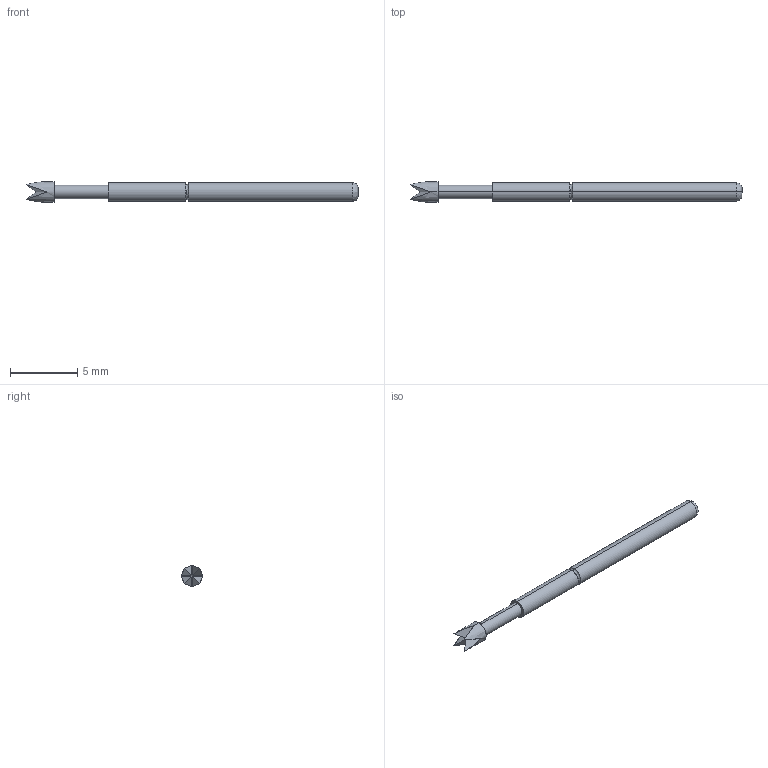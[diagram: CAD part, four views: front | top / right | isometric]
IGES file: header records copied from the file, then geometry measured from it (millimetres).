
Start section: SolidWorks IGES file using analytic representation for surfaces
Global section: file name: O:\PYLON\IGES FILES\P3158\P3158G-1Q1S.IGS; native system: SolidWorks 2015; preprocessor: SolidWorks 2015; author: kgolden; date: 171020.064013; units: inch
Bounding box: 24.64 x 1.52 x 1.52 mm (x, y, z)
Surface area: 112.1 mm2 (no closed solid volume)
Topology: 0 solids, 0 shells, 31 faces, 230 edges, 230 vertices
Faces by surface type: bspline 21, revolution 10
